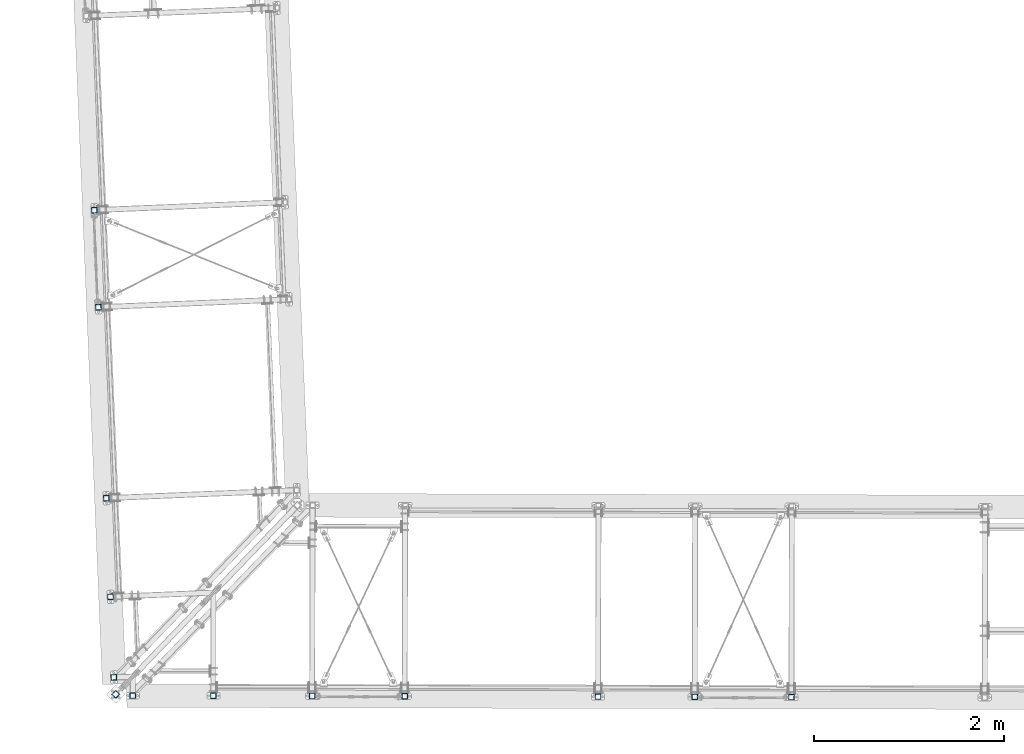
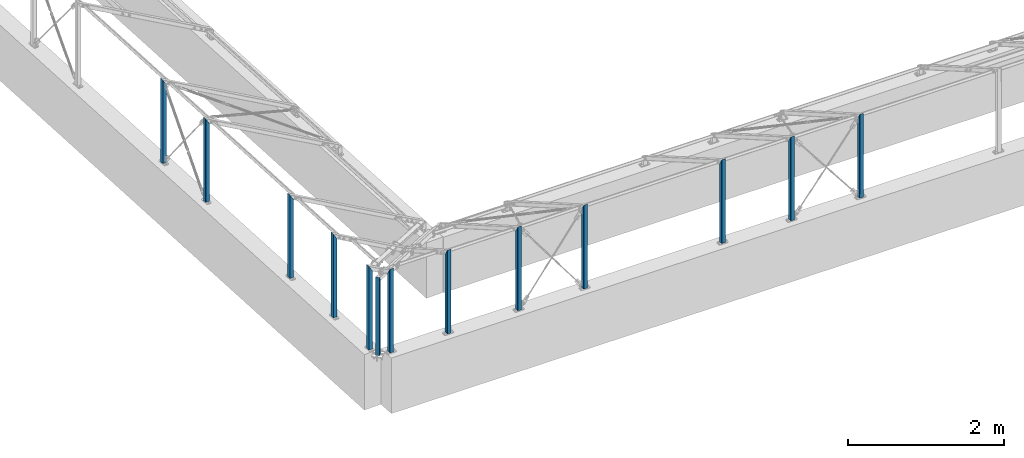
# One storey, part 1 of 288: 13 columns.
"""IFC2X3 building model written with IfcOpenShell, lengths in millimetres."""

from ifc_helpers import new_model, entity, si_unit, converted_unit, frame, origin, origin_with_axes, origin_2d, place, context, project, spatial, hollow_rectangle, extrude, clip, halfspace, material, element, save


model = new_model("IFC2X3")

# Units and contexts
model_context = context("Model", 3, precision=1e-09, world=origin_with_axes())
ifc_project = project(units=[si_unit("LENGTHUNIT", "METRE", prefix="MILLI"), si_unit("AREAUNIT", "SQUARE_METRE"), si_unit("VOLUMEUNIT", "CUBIC_METRE"), converted_unit("PLANEANGLEUNIT", "DEGREE", entity("IfcPlaneAngleMeasure", 0.01745329), si_unit("PLANEANGLEUNIT", "RADIAN"), dimensions=[0, 0, 0, 0, 0, 0, 0])], contexts=[model_context])

# Site, building, storey
site_placement = place(None, origin_with_axes())
site = spatial("IfcSite", under=ifc_project, at=site_placement, Name="Remont ?wietlik?w nad MC w NCPP w Opolu", CompositionType="ELEMENT")
building_placement = place(site_placement, origin_with_axes())
building = spatial("IfcBuilding", under=site, at=building_placement, Name="Konstrukcja 1", CompositionType="ELEMENT")
storey_placement = place(building_placement, origin_with_axes())
storey = spatial("IfcBuildingStorey", under=building, at=storey_placement, Name="Default Storey", CompositionType="ELEMENT", Elevation=0.0)

# Columns
ifc_material = material(Name="S235")
column_1_placement = place(None, frame((-333.33679084, 4993.106480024, -42.42640679), z_axis=(0.0, 0.0, -1.0), x_axis=(0.999131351, 0.041671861, 0.0)))
element("IfcColumn", 1, at=column_1_placement, inside=storey, material=ifc_material, Name="Horizontal_Beam", ObjectType="Horizontal_Beam", context=model_context, shape_type="Clipping", body=[
    clip(clip(extrude(hollow_rectangle(XDim=60.0, YDim=60.0, WallThickness=3.0, InnerFilletRadius=3.0, OuterFilletRadius=6.0, at=origin_2d()), origin(), (0.0, 0.0, -1.0), 1397.279189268), halfspace(frame((581.168309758, 5002.660097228, -305.809752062), z_axis=(-0.866025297, -2.11e-07, 0.500000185), x_axis=(-2.44e-07, 1.0, 0.0)), True)), halfspace(frame((124.975198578, 5002.65998612, -52.427406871), z_axis=(0.0, 0.0, -1.0), x_axis=(0.999131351, 0.041671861, 0.0)), True)),
])
column_2_placement = place(None, frame((-290.633371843, 3969.539907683, -42.426406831), z_axis=(0.0, 0.0, -1.0), x_axis=(0.999131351, 0.041671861, 0.0)))
element("IfcColumn", 2, at=column_2_placement, inside=storey, material=ifc_material, Name="Horizontal_Beam", ObjectType="Horizontal_Beam", context=model_context, shape_type="Clipping", body=[
    clip(clip(extrude(hollow_rectangle(XDim=60.0, YDim=60.0, WallThickness=3.0, InnerFilletRadius=3.0, OuterFilletRadius=6.0, at=origin_2d()), origin(), (0.0, 0.0, -1.0), 1397.279189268), halfspace(frame((581.165396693, 3978.20311431, -305.815229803), z_axis=(-0.866025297, -2.11e-07, 0.500000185), x_axis=(-2.44e-07, 1.0, 0.0)), True)), halfspace(frame((124.962797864, 3978.203003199, -52.427406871), z_axis=(0.0, 0.0, -1.0), x_axis=(0.999131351, 0.041671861, 0.0)), True)),
])
column_3_placement = place(None, frame((-206.710958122, 1956.509661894, -42.426406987), z_axis=(0.0, 0.0, -1.0), x_axis=(0.999131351, 0.041671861, 0.0)))
element("IfcColumn", 3, at=column_3_placement, inside=storey, material=ifc_material, Name="Horizontal_Beam", ObjectType="Horizontal_Beam", context=model_context, shape_type="Clipping", body=[
    clip(clip(extrude(hollow_rectangle(XDim=60.0, YDim=60.0, WallThickness=3.0, InnerFilletRadius=3.0, OuterFilletRadius=6.0, at=origin_2d()), origin(), (0.0, 0.0, -1.0), 1397.28059504), halfspace(frame((581.168314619, 1963.424171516, -305.789618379), z_axis=(-0.86603008, 0.0, 0.499991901), x_axis=(0.0, 1.0, 0.0)), True)), halfspace(frame((125.000000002, 1963.424171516, -52.427406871), z_axis=(0.0, 0.0, -1.0), x_axis=(0.999131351, 0.041671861, 0.0)), True)),
])
column_4_placement = place(None, frame((-163.308691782, 915.889831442, -42.426406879), z_axis=(0.0, 0.0, -1.0), x_axis=(0.999131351, 0.041671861, 0.0)))
element("IfcColumn", 4, at=column_4_placement, inside=storey, material=ifc_material, Name="Horizontal_Beam", ObjectType="Horizontal_Beam", context=model_context, shape_type="Clipping", body=[
    clip(clip(extrude(hollow_rectangle(XDim=60.0, YDim=60.0, WallThickness=3.0, InnerFilletRadius=3.0, OuterFilletRadius=6.0, at=origin_2d()), origin(), (0.0, 0.0, -1.0), 1397.28059504), halfspace(frame((581.168314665, 921.899621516, -305.789618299), z_axis=(-0.86603008, 0.0, 0.499991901), x_axis=(0.0, 1.0, 0.0)), True)), halfspace(frame((125.000000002, 921.899621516, -52.427406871), z_axis=(0.0, 0.0, -1.0), x_axis=(0.999131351, 0.041671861, 0.0)), True)),
])
column_5_placement = place(None, frame((4977.366439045, -136.206063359, -42.426406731), z_axis=(0.0, 0.0, 1.0), x_axis=(0.002261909, 0.999997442, 0.0)))
element("IfcColumn", 5, at=column_5_placement, inside=storey, material=ifc_material, Name="Horizontal_Beam", ObjectType="Horizontal_Beam", context=model_context, shape_type="Clipping", body=[
    clip(clip(extrude(hollow_rectangle(XDim=60.0, YDim=60.0, WallThickness=3.0, InnerFilletRadius=3.0, OuterFilletRadius=6.0, at=origin_2d()), origin(), (0.0, 0.0, 1.0), 1397.279189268), halfspace(frame((581.161355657, 4977.66190321, 305.821807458), z_axis=(-0.866025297, -2.11e-07, -0.500000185), x_axis=(2.44e-07, -1.0, 0.0)), True)), halfspace(frame((124.947363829, 4977.661792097, 52.427406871), z_axis=(0.0, 0.0, 1.0), x_axis=(0.002261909, -0.999997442, 0.0)), True)),
])
column_6_placement = place(None, frame((2938.457221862, -131.624814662, -42.426406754), z_axis=(0.0, 0.0, -1.0), x_axis=(0.002261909, 0.999997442, 0.0)))
element("IfcColumn", 6, at=column_6_placement, inside=storey, material=ifc_material, Name="Horizontal_Beam", ObjectType="Horizontal_Beam", context=model_context, shape_type="Clipping", body=[
    clip(clip(extrude(hollow_rectangle(XDim=60.0, YDim=60.0, WallThickness=3.0, InnerFilletRadius=3.0, OuterFilletRadius=6.0, at=origin_2d()), origin(), (0.0, 0.0, -1.0), 1397.279189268), halfspace(frame((581.170449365, -2938.747317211, -305.809396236), z_axis=(-0.866025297, -2.11e-07, 0.500000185), x_axis=(-2.44e-07, 1.0, 0.0)), True)), halfspace(frame((124.977954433, -2938.747428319, -52.427406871), z_axis=(0.0, 0.0, -1.0), x_axis=(0.002261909, 0.999997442, 0.0)), True)),
])
column_7_placement = place(None, frame((921.615527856, -127.078019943, -42.426406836), z_axis=(0.0, 0.0, -1.0), x_axis=(-2.44e-07, 1.0, 0.0)))
element("IfcColumn", 7, at=column_7_placement, inside=storey, material=ifc_material, Name="Horizontal_Beam", ObjectType="Horizontal_Beam", context=model_context, shape_type="Clipping", body=[
    clip(clip(extrude(hollow_rectangle(XDim=60.0, YDim=60.0, WallThickness=3.0, InnerFilletRadius=3.0, OuterFilletRadius=6.0, at=origin_2d()), origin(), (0.0, 0.0, -1.0), 1397.279184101), halfspace(frame((581.695179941, -921.615386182, -304.899767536), z_axis=(-0.86602528, -2.11e-07, 0.500000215), x_axis=(-2.44e-07, 1.0, 0.0)), True)), halfspace(frame((127.078244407, -921.615496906, -52.427406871), z_axis=(0.0, 0.0, -1.0), x_axis=(-2.44e-07, 1.0, 0.0)), True)),
])
column_8_placement = place(None, frame((5996.820869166, -138.519630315, -42.426406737), z_axis=(0.0, 0.0, -1.0), x_axis=(0.002261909, 0.999997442, 0.0)))
element("IfcColumn", 8, at=column_8_placement, inside=storey, material=ifc_material, Name="Horizontal_Beam", ObjectType="Horizontal_Beam", context=model_context, shape_type="Clipping", body=[
    clip(clip(extrude(hollow_rectangle(XDim=60.0, YDim=60.0, WallThickness=3.0, InnerFilletRadius=3.0, OuterFilletRadius=6.0, at=origin_2d()), origin(), (0.0, 0.0, -1.0), 1397.279189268), halfspace(frame((581.165272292, -5997.118736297, -305.819653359), z_axis=(-0.866025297, -2.11e-07, 0.500000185), x_axis=(-2.44e-07, 1.0, 0.0)), True)), halfspace(frame((124.95501148, -5997.118847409, -52.427406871), z_axis=(0.0, 0.0, -1.0), x_axis=(0.002261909, 0.999997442, 0.0)), True)),
])
column_9_placement = place(None, frame((7016.275418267, -140.8179022, -42.426406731), z_axis=(0.0, 0.0, -1.0), x_axis=(0.002261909, 0.999997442, 0.0)))
element("IfcColumn", 9, at=column_9_placement, inside=storey, material=ifc_material, Name="Horizontal_Beam", ObjectType="Horizontal_Beam", context=model_context, shape_type="Clipping", body=[
    clip(clip(extrude(hollow_rectangle(XDim=60.0, YDim=60.0, WallThickness=3.0, InnerFilletRadius=3.0, OuterFilletRadius=6.0, at=origin_2d()), origin(), (0.0, 0.0, -1.0), 1397.279189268), halfspace(frame((581.1635466, -7016.575875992, -305.8230724), z_axis=(-0.866025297, -2.11e-07, 0.500000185), x_axis=(-2.44e-07, 1.0, 0.0)), True)), halfspace(frame((124.947363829, -7016.575987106, -52.427406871), z_axis=(0.0, 0.0, -1.0), x_axis=(0.002261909, 0.999997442, 0.0)), True)),
])
column_10_placement = place(None, frame((1963.089685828, -129.326542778, -42.42640676), z_axis=(0.0, 0.0, -1.0), x_axis=(0.002261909, 0.999997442, 0.0)))
element("IfcColumn", 10, at=column_10_placement, inside=storey, material=ifc_material, Name="Horizontal_Beam", ObjectType="Horizontal_Beam", context=model_context, shape_type="Clipping", body=[
    clip(clip(extrude(hollow_rectangle(XDim=60.0, YDim=60.0, WallThickness=3.0, InnerFilletRadius=3.0, OuterFilletRadius=6.0, at=origin_2d()), origin(), (0.0, 0.0, -1.0), 1397.279189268), halfspace(frame((581.147252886, -1963.377077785, -305.849162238), z_axis=(-0.866025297, -2.11e-07, 0.500000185), x_axis=(-2.44e-07, 1.0, 0.0)), True)), halfspace(frame((124.885881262, -1963.37718891, -52.427406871), z_axis=(0.0, 0.0, -1.0), x_axis=(0.002261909, 0.999997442, 0.0)), True)),
])
column_11_placement = place(None, frame((-127.887609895, 66.628183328, -42.426406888), z_axis=(0.0, 0.0, -1.0), x_axis=(0.999131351, 0.041671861, 0.0)))
element("IfcColumn", 11, at=column_11_placement, inside=storey, material=ifc_material, Name="Horizontal_Beam", ObjectType="Horizontal_Beam", context=model_context, shape_type="Clipping", body=[
    clip(clip(extrude(hollow_rectangle(XDim=60.0, YDim=60.0, WallThickness=3.0, InnerFilletRadius=3.0, OuterFilletRadius=6.0, at=origin_2d()), origin(), (0.0, 0.0, -1.0), 1397.28059504), halfspace(frame((581.168314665, 71.899621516, -305.789618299), z_axis=(-0.86603008, 0.0, 0.499991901), x_axis=(0.0, 1.0, 0.0)), True)), halfspace(frame((125.000000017, 71.899621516, -52.427406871), z_axis=(0.0, 0.0, -1.0), x_axis=(0.999131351, 0.041671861, 0.0)), True)),
])
column_12_placement = place(None, frame((71.642081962, -125.25679265, -42.427406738), z_axis=(0.0, 0.0, -1.0), x_axis=(-2.44e-07, 1.0, 0.0)))
element("IfcColumn", 12, at=column_12_placement, inside=storey, material=ifc_material, Name="Horizontal_Beam", ObjectType="Horizontal_Beam", context=model_context, shape_type="Clipping", body=[
    clip(clip(extrude(hollow_rectangle(XDim=60.0, YDim=60.0, WallThickness=3.0, InnerFilletRadius=3.0, OuterFilletRadius=6.0, at=origin_2d()), origin(), (0.0, 0.0, -1.0), 1397.279184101), halfspace(frame((581.23923274, -71.641940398, -305.689132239), z_axis=(-0.86602528, -2.11e-07, 0.500000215), x_axis=(-2.44e-07, 1.0, 0.0)), True)), halfspace(frame((125.256810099, -71.642051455, -52.427406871), z_axis=(0.0, 0.0, -1.0), x_axis=(-2.44e-07, 1.0, 0.0)), True)),
])
column_13_placement = place(None, frame((-108.007635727, -112.35232523, -32.425406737), z_axis=(0.0, 0.0, -1.0), x_axis=(-0.720915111, 0.693023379, 0.0)))
element("IfcColumn", 13, at=column_13_placement, inside=storey, material=ifc_material, Name="-", ObjectType="-", context=model_context, shape_type="Clipping", body=[
    clip(clip(extrude(hollow_rectangle(XDim=60.0, YDim=60.0, WallThickness=3.0, InnerFilletRadius=3.0, OuterFilletRadius=6.0, at=origin_2d()), origin(), (0.0, 0.0, -1.0), 1440.932593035), halfspace(frame((0.012912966, 601.680573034, -329.529694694), z_axis=(-2.6993e-05, -0.832151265, 0.55454871), x_axis=(-0.999999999, 3.2437e-05, 0.0)), True)), halfspace(frame((-0.001548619, 155.848305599, -52.427406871), z_axis=(0.0, 0.0, -1.0), x_axis=(-0.720915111, 0.693023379, 0.0)), True)),
])

save(model, "model.ifc")
